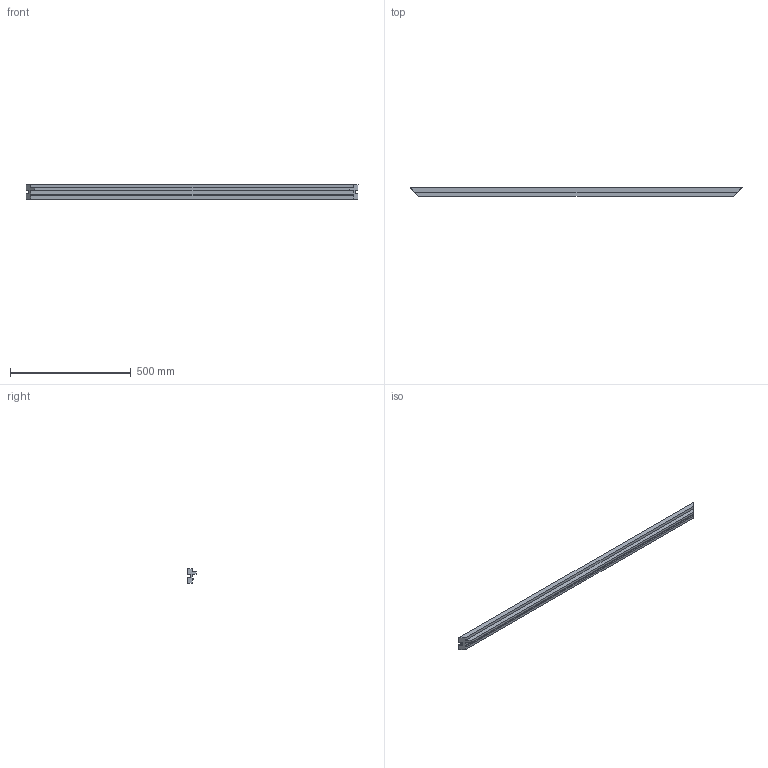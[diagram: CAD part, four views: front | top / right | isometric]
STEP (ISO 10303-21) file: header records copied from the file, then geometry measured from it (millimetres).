
FILE_DESCRIPTION(/* description */ (''),/* implementation_level */ '2;1');
FILE_NAME(/* name */ 'Pos138-PV-SCHERM PROFIEL 60X37-Aluminium-2st',/* time_stamp */ '2024-08-06T11:49:44+02:00',/* author */ (''),/* organization */ (''),/* preprocessor_version */ 'ST-DEVELOPER v16.5',/* originating_system */ 'HiCAD 2024 2901.2 Build 361',/* authorisation */ '');
FILE_SCHEMA (('AUTOMOTIVE_DESIGN { 1 0 10303 214 1 1 1 1 }'));
Length unit declared in the file: millimetre
Products named in the file (1): Pos138-PV-SCHERM PROFIEL 60X37-Aluminium-2st
Bounding box: 1376 x 37 x 60 mm (x, y, z)
Volume: 1688462.7 mm3; surface area: 327967.1 mm2
Topology: 1 solids, 1 shells, 33 faces, 93 edges, 62 vertices
Faces by surface type: plane 29, cylinder 4
Entity records: 2003 total; most frequent: CARTESIAN_POINT 188, PRESENTATION_STYLE_ASSIGNMENT 187, COLOUR_RGB 187, DRAUGHTING_PRE_DEFINED_CURVE_FONT 186, CURVE_STYLE 186, OVER_RIDING_STYLED_ITEM 186, ORIENTED_EDGE 186, DIRECTION 167
